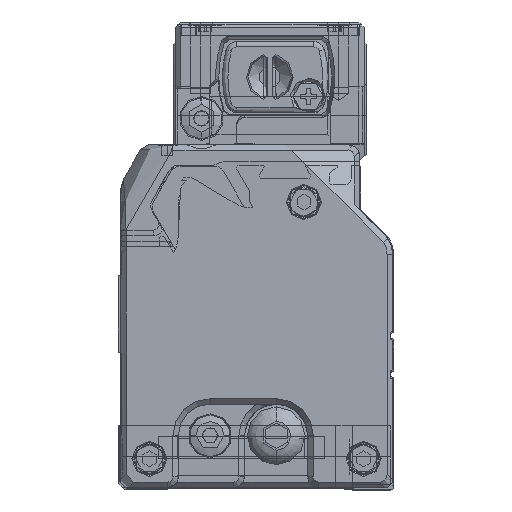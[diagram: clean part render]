
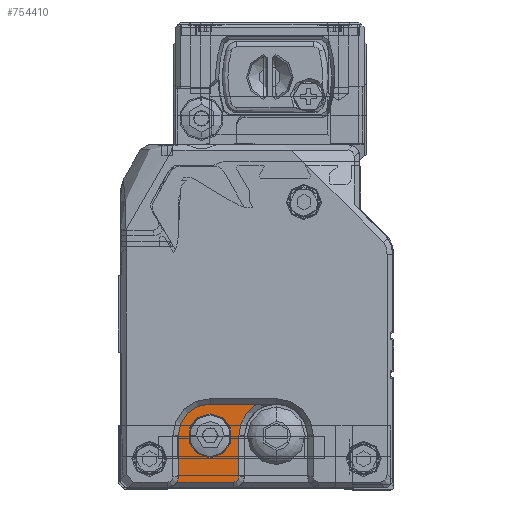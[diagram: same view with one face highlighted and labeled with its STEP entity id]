
A CAD part, left-side view. The second image highlights one B-rep face of the part: STEP entity #754410.
In plain terms, the highlighted planar face has unit normal (-1, 0, 0) as drawn and (1, 0, 0) by its records, which use the part's own axes.
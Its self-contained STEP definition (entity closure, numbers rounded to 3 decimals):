
#753510=CARTESIAN_POINT('',(7064.177,-5.938,
-12.8));
#753520=DIRECTION('',(-1.,0.,0.));
#753530=DIRECTION('',(0.,0.,-1.));
#753540=AXIS2_PLACEMENT_3D('',#753510,#753520,#753530);
#753550=PLANE('',#753540);
#753560=CARTESIAN_POINT('',(7064.177,4.212,
11.598));
#753570=DIRECTION('',(0.,-1.,0.));
#753580=VECTOR('',#753570,1.);
#753590=LINE('',#753560,#753580);
#753600=CARTESIAN_POINT('',(7064.177,8.48,
11.598));
#753610=VERTEX_POINT('',#753600);
#753620=CARTESIAN_POINT('',(7064.177,-1.788,
11.598));
#753630=VERTEX_POINT('',#753620);
#753640=EDGE_CURVE('',#753610,#753630,#753590,.T.);
#753650=ORIENTED_EDGE('',*,*,#753640,.T.);
#753660=CARTESIAN_POINT('',(7064.177,10.212,
10.598));
#753670=DIRECTION('',(-1.,0.,0.));
#753680=DIRECTION('',(0.,1.,0.));
#753690=AXIS2_PLACEMENT_3D('',#753660,#753670,#753680);
#753700=CIRCLE('',#753690,2.);
#753710=CARTESIAN_POINT('',(7064.177,8.212,
10.598));
#753720=VERTEX_POINT('',#753710);
#753730=EDGE_CURVE('',#753720,#753610,#753700,.T.);
#753740=ORIENTED_EDGE('',*,*,#753730,.T.);
#753750=CARTESIAN_POINT('',(7064.177,8.212,
3.148));
#753760=DIRECTION('',(0.,0.,1.));
#753770=VECTOR('',#753760,1.);
#753780=LINE('',#753750,#753770);
#753790=CARTESIAN_POINT('',(7064.177,8.212,
3.148));
#753800=VERTEX_POINT('',#753790);
#753810=EDGE_CURVE('',#753800,#753720,#753780,.T.);
#753820=ORIENTED_EDGE('',*,*,#753810,.T.);
#753830=CARTESIAN_POINT('',(7064.177,2.462,
3.148));
#753840=DIRECTION('',(-1.,0.,0.));
#753850=DIRECTION('',(0.,1.,0.));
#753860=AXIS2_PLACEMENT_3D('',#753830,#753840,#753850);
#753870=CIRCLE('',#753860,5.75);
#753880=CARTESIAN_POINT('',(7064.177,2.462,
-2.602));
#753890=VERTEX_POINT('',#753880);
#753900=EDGE_CURVE('',#753800,#753890,#753870,.T.);
#753910=ORIENTED_EDGE('',*,*,#753900,.F.);
#753920=CARTESIAN_POINT('',(7064.177,-5.888,
-2.602));
#753930=DIRECTION('',(0.,1.,0.));
#753940=VECTOR('',#753930,1.);
#753950=LINE('',#753920,#753940);
#753960=CARTESIAN_POINT('',(7064.177,-6.002,
-2.602));
#753970=VERTEX_POINT('',#753960);
#753980=EDGE_CURVE('',#753970,#753890,#753950,.T.);
#753990=ORIENTED_EDGE('',*,*,#753980,.T.);
#754000=CARTESIAN_POINT('',(7064.177,-9.538,
3.148));
#754010=DIRECTION('',(-1.,0.,0.));
#754020=DIRECTION('',(0.,1.,0.));
#754030=AXIS2_PLACEMENT_3D('',#754000,#754010,#754020);
#754040=CIRCLE('',#754030,6.75);
#754050=CARTESIAN_POINT('',(7064.177,-2.788,
3.148));
#754060=VERTEX_POINT('',#754050);
#754070=EDGE_CURVE('',#754060,#753970,#754040,.T.);
#754080=ORIENTED_EDGE('',*,*,#754070,.T.);
#754090=CARTESIAN_POINT('',(7064.177,-2.788,
6.873));
#754100=DIRECTION('',(0.,0.,-1.));
#754110=VECTOR('',#754100,1.);
#754120=LINE('',#754090,#754110);
#754130=CARTESIAN_POINT('',(7064.177,-2.788,
10.598));
#754140=VERTEX_POINT('',#754130);
#754150=EDGE_CURVE('',#754140,#754060,#754120,.T.);
#754160=ORIENTED_EDGE('',*,*,#754150,.T.);
#754170=CARTESIAN_POINT('',(7064.177,-1.788,
10.598));
#754180=DIRECTION('',(-1.,0.,0.));
#754190=DIRECTION('',(0.,1.,0.));
#754200=AXIS2_PLACEMENT_3D('',#754170,#754180,#754190);
#754210=CIRCLE('',#754200,1.);
#754220=EDGE_CURVE('',#754140,#753630,#754210,.T.);
#754230=ORIENTED_EDGE('',*,*,#754220,.F.);
#754240=EDGE_LOOP('',(#754230,#754160,#754080,#753990,#753910,#753820,
#753740,#753650));
#754250=FACE_OUTER_BOUND('',#754240,.T.);
#754260=CARTESIAN_POINT('',(7064.177,2.462,
3.148));
#754270=DIRECTION('',(-1.,0.,0.));
#754280=DIRECTION('',(0.,0.,-1.));
#754290=AXIS2_PLACEMENT_3D('',#754260,#754270,#754280);
#754300=CIRCLE('',#754290,4.);
#754310=CARTESIAN_POINT('',(7064.177,2.462,
7.148));
#754320=VERTEX_POINT('',#754310);
#754330=CARTESIAN_POINT('',(7064.177,2.462,
-0.852));
#754340=VERTEX_POINT('',#754330);
#754350=EDGE_CURVE('',#754320,#754340,#754300,.T.);
#754360=ORIENTED_EDGE('',*,*,#754350,.T.);
#754370=EDGE_CURVE('',#754340,#754320,#754300,.T.);
#754380=ORIENTED_EDGE('',*,*,#754370,.T.);
#754390=EDGE_LOOP('',(#754380,#754360));
#754400=FACE_BOUND('',#754390,.T.);
#754410=ADVANCED_FACE('',(#754250,#754400),#753550,.F.);
